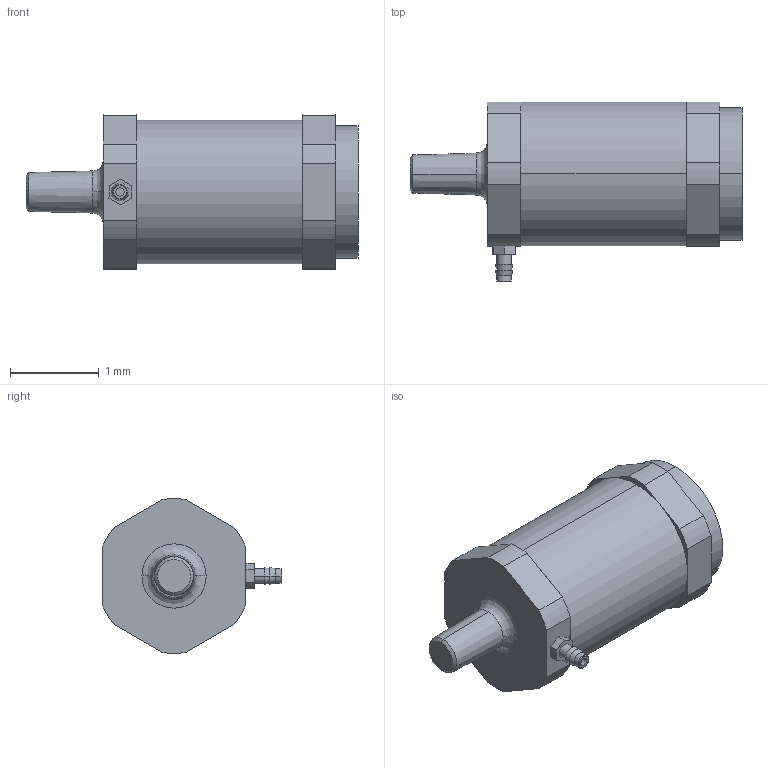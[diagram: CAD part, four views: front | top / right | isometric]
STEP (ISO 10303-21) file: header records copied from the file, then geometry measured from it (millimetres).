
FILE_DESCRIPTION((''),'2;1');
FILE_NAME('UB4.stp','2017-11-07T11:13:40',(''),(''),'Mechanical Desktop 2011','Mechanical Desktop 2011',', , ');
FILE_SCHEMA(('CONFIG_CONTROL_DESIGN'));
Length unit declared in the file: millimetre
Products named in the file (1): Product
Bounding box: 3.75 x 2.03 x 1.75 mm (x, y, z)
Volume: 6.2 mm3; surface area: 33.1 mm2
Topology: 5 solids, 5 shells, 66 faces, 151 edges, 99 vertices
Faces by surface type: plane 32, cylinder 22, cone 8, torus 2, bspline 2
Entity records: 2053 total; most frequent: CARTESIAN_POINT 405, DIRECTION 348, ORIENTED_EDGE 302, EDGE_CURVE 151, AXIS2_PLACEMENT_3D 132, VERTEX_POINT 99, VECTOR 84, LINE 84
